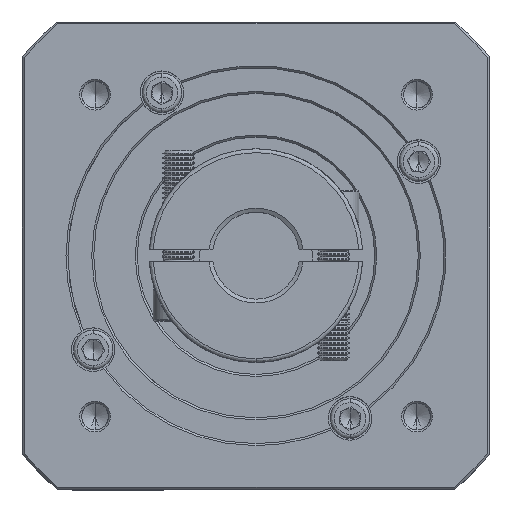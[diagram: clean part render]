
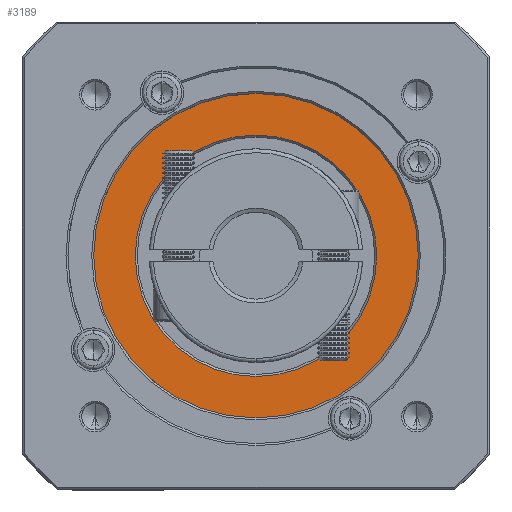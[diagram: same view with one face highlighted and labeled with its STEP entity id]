
A CAD part, top view. The second image highlights one B-rep face of the part: STEP entity #3189.
In plain terms, the highlighted planar face has unit normal (0, 0, 1).
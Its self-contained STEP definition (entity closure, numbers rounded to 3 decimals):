
#2834 = DIRECTION ( 'NONE',  ( 0., 0., -1. ) ) ;
#3189 = ADVANCED_FACE ( 'NONE', ( #46424, #105695 ), #101888, .T. ) ;
#8090 = AXIS2_PLACEMENT_3D ( 'NONE', #61146, #132806, #62033 ) ;
#9022 = DIRECTION ( 'NONE',  ( 0., -1., 0. ) ) ;
#9936 = DIRECTION ( 'NONE',  ( 0., -1., 0. ) ) ;
#17437 = AXIS2_PLACEMENT_3D ( 'NONE', #82241, #90717, #9022 ) ;
#22980 = EDGE_CURVE ( 'NONE', #71367, #110908, #96403, .T. ) ;
#24353 = CIRCLE ( 'NONE', #8090, 41. ) ;
#27192 = VERTEX_POINT ( 'NONE', #37341 ) ;
#32454 = CARTESIAN_POINT ( 'NONE',  ( 69.759, 74.69, -28.959 ) ) ;
#32586 = CARTESIAN_POINT ( 'NONE',  ( 69.759, 44.19, -28.959 ) ) ;
#33969 = AXIS2_PLACEMENT_3D ( 'NONE', #61666, #122584, #9936 ) ;
#37341 = CARTESIAN_POINT ( 'NONE',  ( 69.759, 13.69, -28.959 ) ) ;
#46424 = FACE_OUTER_BOUND ( 'NONE', #56371, .T. ) ;
#55629 = ORIENTED_EDGE ( 'NONE', *, *, #100156, .T. ) ;
#56371 = EDGE_LOOP ( 'NONE', ( #85979, #106243 ) ) ;
#61146 = CARTESIAN_POINT ( 'NONE',  ( 69.759, 44.19, -28.959 ) ) ;
#61666 = CARTESIAN_POINT ( 'NONE',  ( 69.759, 44.19, -28.959 ) ) ;
#61888 = EDGE_LOOP ( 'NONE', ( #122945, #55629 ) ) ;
#62033 = DIRECTION ( 'NONE',  ( 0., -1., 0. ) ) ;
#70738 = DIRECTION ( 'NONE',  ( 0., 0., -1. ) ) ;
#71186 = DIRECTION ( 'NONE',  ( 0., -1., 0. ) ) ;
#71367 = VERTEX_POINT ( 'NONE', #101005 ) ;
#82241 = CARTESIAN_POINT ( 'NONE',  ( 69.759, 44.19, -28.959 ) ) ;
#85979 = ORIENTED_EDGE ( 'NONE', *, *, #103458, .T. ) ;
#86346 = CIRCLE ( 'NONE', #101034, 30.5 ) ;
#90121 = AXIS2_PLACEMENT_3D ( 'NONE', #32586, #2834, #103843 ) ;
#90717 = DIRECTION ( 'NONE',  ( 0., 0., 1. ) ) ;
#96403 = CIRCLE ( 'NONE', #17437, 41. ) ;
#100156 = EDGE_CURVE ( 'NONE', #115916, #27192, #131218, .T. ) ;
#101005 = CARTESIAN_POINT ( 'NONE',  ( 69.759, 85.19, -28.959 ) ) ;
#101034 = AXIS2_PLACEMENT_3D ( 'NONE', #122249, #70738, #71186 ) ;
#101888 = PLANE ( 'NONE',  #33969 ) ;
#103458 = EDGE_CURVE ( 'NONE', #110908, #71367, #24353, .T. ) ;
#103843 = DIRECTION ( 'NONE',  ( 0., -1., 0. ) ) ;
#104309 = EDGE_CURVE ( 'NONE', #27192, #115916, #86346, .T. ) ;
#105695 = FACE_BOUND ( 'NONE', #61888, .T. ) ;
#106243 = ORIENTED_EDGE ( 'NONE', *, *, #22980, .T. ) ;
#107234 = CARTESIAN_POINT ( 'NONE',  ( 69.759, 3.19, -28.959 ) ) ;
#110908 = VERTEX_POINT ( 'NONE', #107234 ) ;
#115916 = VERTEX_POINT ( 'NONE', #32454 ) ;
#122249 = CARTESIAN_POINT ( 'NONE',  ( 69.759, 44.19, -28.959 ) ) ;
#122584 = DIRECTION ( 'NONE',  ( 0., 0., 1. ) ) ;
#122945 = ORIENTED_EDGE ( 'NONE', *, *, #104309, .T. ) ;
#131218 = CIRCLE ( 'NONE', #90121, 30.5 ) ;
#132806 = DIRECTION ( 'NONE',  ( 0., 0., 1. ) ) ;
